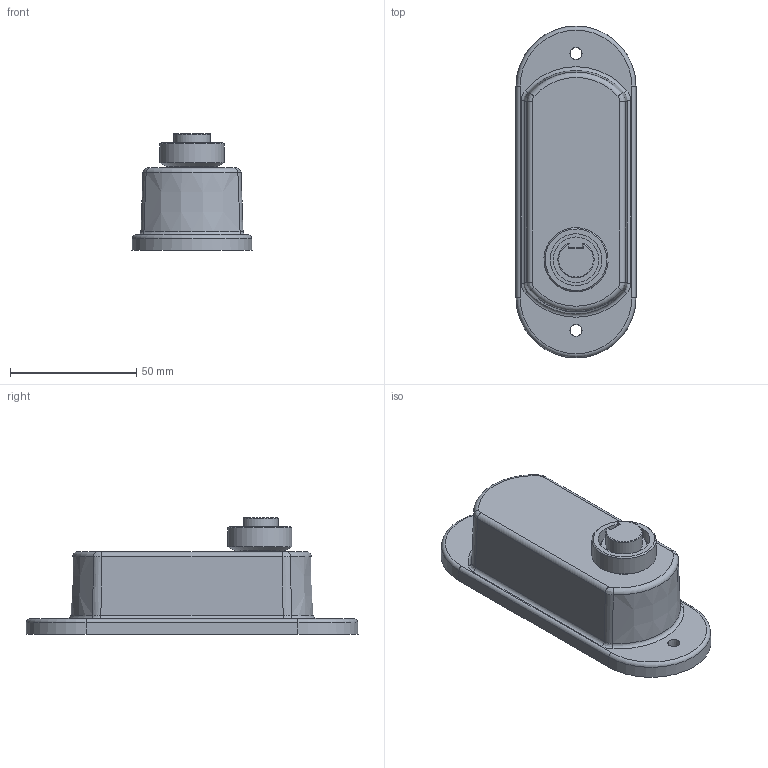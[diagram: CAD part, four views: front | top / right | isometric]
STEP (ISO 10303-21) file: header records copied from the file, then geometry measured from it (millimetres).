
FILE_DESCRIPTION(/* description */ ('PART (MM)'),/* implementation_level */ '2;1');
FILE_NAME(/* name */ 'L:\CAD Inventor\Workspace\Catalogs\TURCK BOXES\BCA-25-M123.stp',/* time_stamp */ '2021-11-30T09:48:20-06:00',/* author */ ('RSwans'),/* organization */ (''),/* preprocessor_version */ 'ST-DEVELOPER v16.5',/* originating_system */ 'Autodesk Inventor 2017',/* authorisation */ '');
FILE_SCHEMA (('AUTOMOTIVE_DESIGN { 1 0 10303 214 3 1 1 }'));
Length unit declared in the file: millimetre
Products named in the file (1): Part1
Bounding box: 47.5 x 131.35 x 46.27 mm (x, y, z)
Volume: 61451 mm3; surface area: 36359.9 mm2
Topology: 1 solids, 3 shells, 280 faces, 656 edges, 396 vertices
Faces by surface type: plane 101, cylinder 91, cone 32, bspline 24, sphere 18, torus 14
Full cylindrical faces by diameter (mm): 1.9 x4, 3.2 x4, 3.3 x4, 4.639 x2, 14 x3, 14.2 x2, 16 x1, 18 x1, 20 x1, 20.5 x1, 22.5 x1, 25.4 x1
Entity records: 8171 total; most frequent: CARTESIAN_POINT 1820, DIRECTION 1331, ORIENTED_EDGE 1112, EDGE_CURVE 556, AXIS2_PLACEMENT_3D 542, EDGE_LOOP 373, VERTEX_POINT 369, FACE_OUTER_BOUND 280
